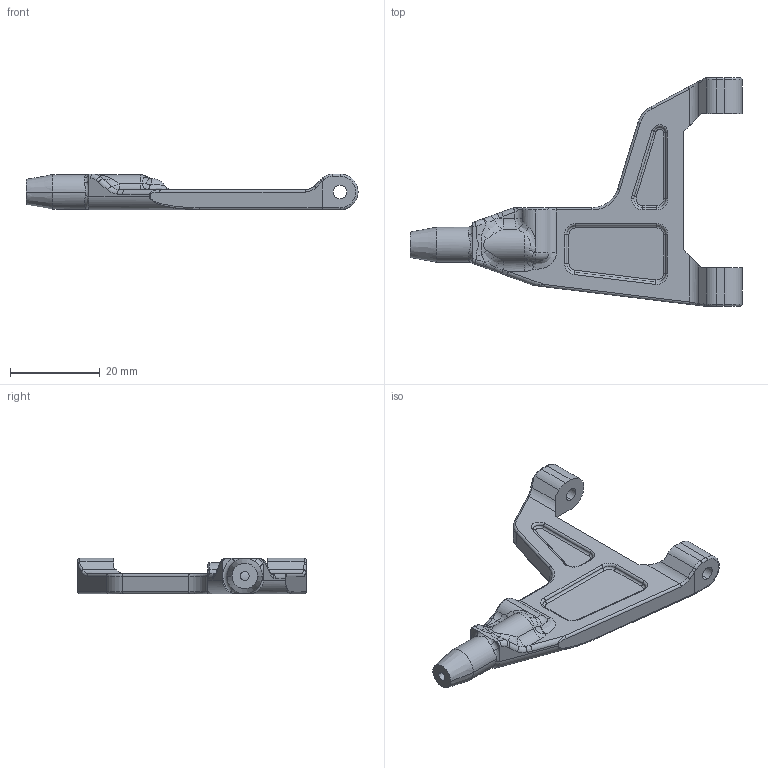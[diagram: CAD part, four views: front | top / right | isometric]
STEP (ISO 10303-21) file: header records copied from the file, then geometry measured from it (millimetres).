
FILE_DESCRIPTION (( 'STEP AP214' ), '1' );
FILE_NAME ('Çåðêàëüíî îòðàçèòüÏåðåäíèé ðû÷àã ÏÍ.STEP', '2019-03-21T14:12:42', ( '' ), ( '' ), 'SwSTEP 2.0', 'SolidWorks 2018', '' );
FILE_SCHEMA (( 'AUTOMOTIVE_DESIGN' ));
Length unit declared in the file: millimetre
Products named in the file (1): Çåðêàëüíî îòðàçèòüÏåðåäíèé ðû÷àã ÏÍ
Bounding box: 74 x 50.98 x 8 mm (x, y, z)
Volume: 6884.2 mm3; surface area: 4547.5 mm2
Topology: 1 solids, 1 shells, 170 faces, 408 edges, 244 vertices
Faces by surface type: cylinder 70, torus 34, bspline 32, plane 28, cone 4, sphere 2
Entity records: 5957 total; most frequent: CARTESIAN_POINT 2163, ORIENTED_EDGE 816, DIRECTION 788, EDGE_CURVE 408, AXIS2_PLACEMENT_3D 323, VERTEX_POINT 244, CIRCLE 184, EDGE_LOOP 178
